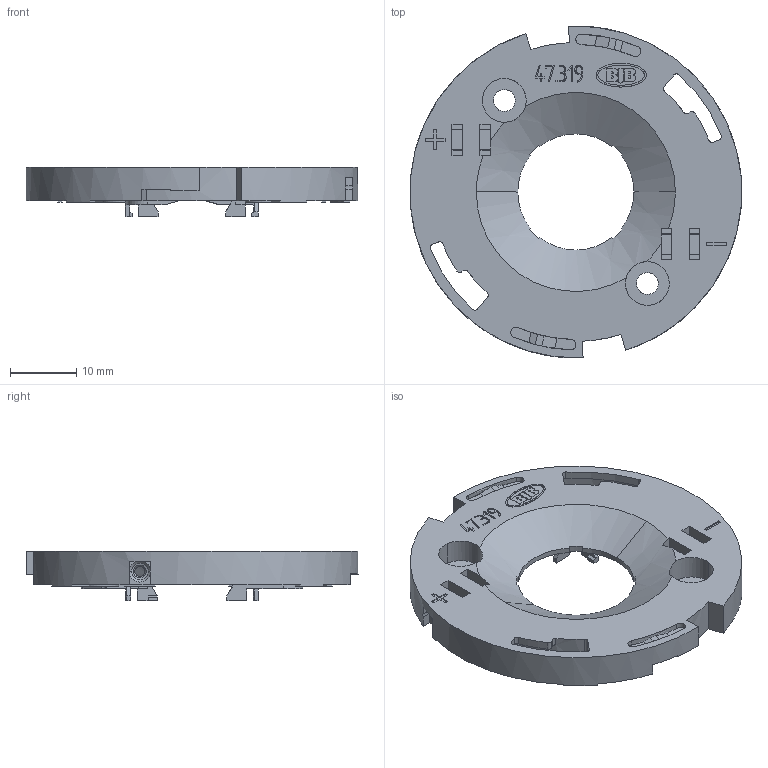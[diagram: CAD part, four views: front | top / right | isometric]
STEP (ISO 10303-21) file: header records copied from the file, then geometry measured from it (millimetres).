
FILE_DESCRIPTION(('CAx-IF Rec.Pracs.---Model Styling and Organization---1.2---2011-12-15','CAx-IF Rec.Pracs.---Geometric and Assembly Validation Properties---4.1---2014-06-16','CAx-IF Rec.Pracs.---PMI Polyline Presentation---2.0---2013-05-24'),'2;1');
FILE_NAME('01TYA53Y02.stp','2018-11-28T13:30:00+01:00',(''),(''),'STEP Interface 4.2 by CT CoreTechnologie','3D_Evolution4.2 by CT CoreTechnologie','');
FILE_SCHEMA(('AUTOMOTIVE_DESIGN { 1 0 10303 214 1 1 1 1 }'));
Length unit declared in the file: millimetre
Products named in the file (3): 01T-A53-02; 01T-A50-02; 01T-A51-02
Assembly tree (3 placements, depth 2):
  01T-A53-02
    01T-A50-02
    01T-A51-02  x2
Bounding box: 49.93 x 49.99 x 7.48 mm (x, y, z)
Volume: 4097.6 mm3; surface area: 7531.4 mm2
Topology: 3 solids, 3 shells, 776 faces, 2206 edges, 1464 vertices
Faces by surface type: plane 578, cylinder 144, bspline 54
Entity records: 30460 total; most frequent: CARTESIAN_POINT 5477, ORIENTED_EDGE 4122, DIRECTION 3831, EDGE_CURVE 2061, VECTOR 1567, LINE 1567, VERTEX_POINT 1368, AXIS2_PLACEMENT_3D 1132
